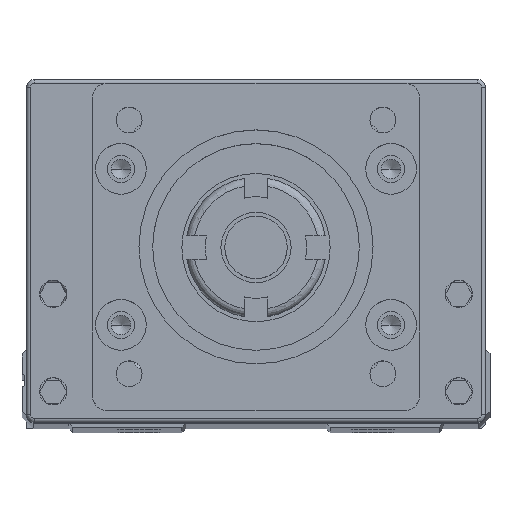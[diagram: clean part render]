
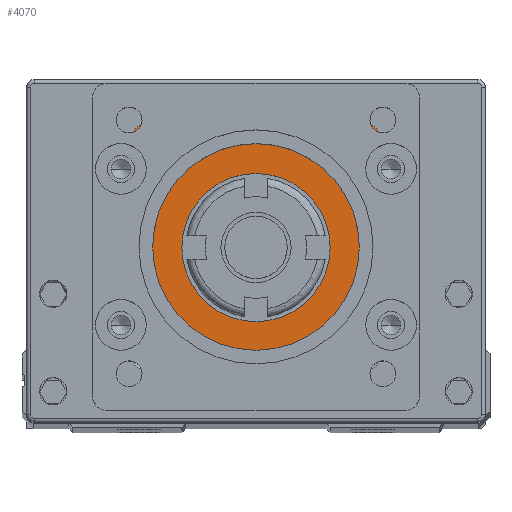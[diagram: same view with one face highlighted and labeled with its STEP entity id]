
A CAD part, top view. The second image highlights one B-rep face of the part: STEP entity #4070.
In plain terms, the highlighted planar face has unit normal (0, 0, 1).
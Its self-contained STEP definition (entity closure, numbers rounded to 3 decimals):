
#259 = EDGE_CURVE ( 'NONE', #41064, #5808, #46841, .T. ) ;
#370 = CARTESIAN_POINT ( 'NONE',  ( 51.735, 12.398, 218.5 ) ) ;
#893 = DIRECTION ( 'NONE',  ( 1., 0., 0. ) ) ;
#2099 = DIRECTION ( 'NONE',  ( 0., 0., -1. ) ) ;
#2483 = EDGE_CURVE ( 'NONE', #41971, #55042, #20600, .T. ) ;
#2522 = CARTESIAN_POINT ( 'NONE',  ( 3.935, 29.398, 218.5 ) ) ;
#3054 = CARTESIAN_POINT ( 'NONE',  ( 51.735, 32.398, 218.5 ) ) ;
#3131 = VERTEX_POINT ( 'NONE', #10608 ) ;
#3368 = ORIENTED_EDGE ( 'NONE', *, *, #47364, .F. ) ;
#3537 = ORIENTED_EDGE ( 'NONE', *, *, #259, .F. ) ;
#3769 = LINE ( 'NONE', #17648, #50534 ) ;
#3874 = EDGE_CURVE ( 'NONE', #5808, #3131, #32686, .T. ) ;
#3947 = ORIENTED_EDGE ( 'NONE', *, *, #17452, .F. ) ;
#4070 = ADVANCED_FACE ( 'NONE', ( #43689, #58590 ), #23380, .F. ) ;
#4091 = VERTEX_POINT ( 'NONE', #15583 ) ;
#4643 = VERTEX_POINT ( 'NONE', #27958 ) ;
#4721 = VERTEX_POINT ( 'NONE', #65483 ) ;
#4904 = ORIENTED_EDGE ( 'NONE', *, *, #14084, .F. ) ;
#5326 = CARTESIAN_POINT ( 'NONE',  ( 12.935, 29.398, 218.5 ) ) ;
#5808 = VERTEX_POINT ( 'NONE', #2522 ) ;
#5833 = CARTESIAN_POINT ( 'NONE',  ( 12.935, 12.398, 218.5 ) ) ;
#7246 = AXIS2_PLACEMENT_3D ( 'NONE', #57043, #15434, #893 ) ;
#8822 = VECTOR ( 'NONE', #26128, 1000. ) ;
#9505 = DIRECTION ( 'NONE',  ( 1., 0., 0. ) ) ;
#9786 = DIRECTION ( 'NONE',  ( 0., -1., 0. ) ) ;
#10340 = CARTESIAN_POINT ( 'NONE',  ( 40.32, 12.398, 218.5 ) ) ;
#10608 = CARTESIAN_POINT ( 'NONE',  ( 3.935, 32.398, 218.5 ) ) ;
#12575 = VECTOR ( 'NONE', #23665, 1000. ) ;
#13374 = CARTESIAN_POINT ( 'NONE',  ( 52.335, 44.398, 218.5 ) ) ;
#13581 = DIRECTION ( 'NONE',  ( 0., -1., 0. ) ) ;
#13705 = DIRECTION ( 'NONE',  ( 1., 0., 0. ) ) ;
#14084 = EDGE_CURVE ( 'NONE', #35038, #41064, #3769, .T. ) ;
#14175 = CARTESIAN_POINT ( 'NONE',  ( 22.835, 23.898, 218.5 ) ) ;
#14219 = AXIS2_PLACEMENT_3D ( 'NONE', #56028, #19465, #13705 ) ;
#14452 = VECTOR ( 'NONE', #31311, 1000. ) ;
#14480 = EDGE_CURVE ( 'NONE', #4091, #31594, #61526, .T. ) ;
#14496 = DIRECTION ( 'NONE',  ( 0., 1., 0. ) ) ;
#14547 = ORIENTED_EDGE ( 'NONE', *, *, #66430, .F. ) ;
#15434 = DIRECTION ( 'NONE',  ( 0., 0., 1. ) ) ;
#15583 = CARTESIAN_POINT ( 'NONE',  ( 12.335, 32.398, 218.5 ) ) ;
#15586 = VERTEX_POINT ( 'NONE', #47650 ) ;
#15678 = LINE ( 'NONE', #46449, #32820 ) ;
#16502 = CARTESIAN_POINT ( 'NONE',  ( 12.335, 44.398, 218.5 ) ) ;
#17220 = DIRECTION ( 'NONE',  ( 1., 0., 0. ) ) ;
#17313 = CIRCLE ( 'NONE', #43218, 9.5 ) ;
#17452 = EDGE_CURVE ( 'NONE', #15586, #36331, #17313, .T. ) ;
#17648 = CARTESIAN_POINT ( 'NONE',  ( 12.935, 26.398, 218.5 ) ) ;
#19465 = DIRECTION ( 'NONE',  ( 0., 0., -1. ) ) ;
#20183 = DIRECTION ( 'NONE',  ( -1., 0., 0. ) ) ;
#20600 = LINE ( 'NONE', #29784, #58141 ) ;
#20934 = LINE ( 'NONE', #61214, #24874 ) ;
#21434 = CARTESIAN_POINT ( 'NONE',  ( 60.735, 29.398, 218.5 ) ) ;
#21749 = CIRCLE ( 'NONE', #14219, 14. ) ;
#22019 = ORIENTED_EDGE ( 'NONE', *, *, #64324, .F. ) ;
#22470 = VECTOR ( 'NONE', #14496, 1000. ) ;
#22562 = EDGE_CURVE ( 'NONE', #48069, #4643, #26286, .T. ) ;
#22617 = DIRECTION ( 'NONE',  ( 0., 0., 1. ) ) ;
#23380 = PLANE ( 'NONE',  #66187 ) ;
#23621 = VECTOR ( 'NONE', #9505, 1000. ) ;
#23665 = DIRECTION ( 'NONE',  ( -1., 0., 0. ) ) ;
#24874 = VECTOR ( 'NONE', #46994, 1000. ) ;
#25721 = ORIENTED_EDGE ( 'NONE', *, *, #3874, .F. ) ;
#26128 = DIRECTION ( 'NONE',  ( -1., 0., 0. ) ) ;
#26286 = LINE ( 'NONE', #5326, #66482 ) ;
#26541 = ORIENTED_EDGE ( 'NONE', *, *, #52586, .T. ) ;
#27102 = VERTEX_POINT ( 'NONE', #370 ) ;
#27958 = CARTESIAN_POINT ( 'NONE',  ( 51.735, 29.398, 218.5 ) ) ;
#29724 = DIRECTION ( 'NONE',  ( 0., -1., 0. ) ) ;
#29784 = CARTESIAN_POINT ( 'NONE',  ( 52.335, 26.398, 218.5 ) ) ;
#29827 = CARTESIAN_POINT ( 'NONE',  ( 52.335, 32.398, 218.5 ) ) ;
#30837 = ORIENTED_EDGE ( 'NONE', *, *, #2483, .F. ) ;
#31311 = DIRECTION ( 'NONE',  ( -1., 0., 0. ) ) ;
#31594 = VERTEX_POINT ( 'NONE', #16502 ) ;
#32686 = LINE ( 'NONE', #43126, #44475 ) ;
#32820 = VECTOR ( 'NONE', #46092, 1000. ) ;
#32843 = EDGE_CURVE ( 'NONE', #36331, #15586, #40716, .T. ) ;
#32984 = VERTEX_POINT ( 'NONE', #51955 ) ;
#34273 = VECTOR ( 'NONE', #29724, 1000. ) ;
#34772 = EDGE_CURVE ( 'NONE', #31594, #41971, #20934, .T. ) ;
#35038 = VERTEX_POINT ( 'NONE', #35345 ) ;
#35208 = LINE ( 'NONE', #50800, #23621 ) ;
#35345 = CARTESIAN_POINT ( 'NONE',  ( 12.935, 12.398, 218.5 ) ) ;
#35473 = LINE ( 'NONE', #3054, #12575 ) ;
#36331 = VERTEX_POINT ( 'NONE', #14175 ) ;
#36638 = CARTESIAN_POINT ( 'NONE',  ( 12.935, 29.398, 218.5 ) ) ;
#36846 = EDGE_LOOP ( 'NONE', ( #3947, #61031 ) ) ;
#39486 = LINE ( 'NONE', #60140, #34273 ) ;
#40239 = EDGE_CURVE ( 'NONE', #3131, #4091, #35208, .T. ) ;
#40716 = CIRCLE ( 'NONE', #7246, 9.5 ) ;
#41064 = VERTEX_POINT ( 'NONE', #50138 ) ;
#41971 = VERTEX_POINT ( 'NONE', #13374 ) ;
#42007 = VECTOR ( 'NONE', #57337, 1000. ) ;
#42670 = ORIENTED_EDGE ( 'NONE', *, *, #34772, .F. ) ;
#42741 = EDGE_CURVE ( 'NONE', #50955, #32984, #21749, .T. ) ;
#43126 = CARTESIAN_POINT ( 'NONE',  ( 3.935, 26.398, 218.5 ) ) ;
#43218 = AXIS2_PLACEMENT_3D ( 'NONE', #63258, #22617, #17220 ) ;
#43354 = CARTESIAN_POINT ( 'NONE',  ( 12.935, 26.398, 218.5 ) ) ;
#43689 = FACE_BOUND ( 'NONE', #36846, .T. ) ;
#44475 = VECTOR ( 'NONE', #53641, 1000. ) ;
#44831 = ORIENTED_EDGE ( 'NONE', *, *, #40239, .F. ) ;
#45813 = LINE ( 'NONE', #51558, #14452 ) ;
#46092 = DIRECTION ( 'NONE',  ( 0., -1., 0. ) ) ;
#46370 = EDGE_CURVE ( 'NONE', #27102, #50955, #57585, .T. ) ;
#46449 = CARTESIAN_POINT ( 'NONE',  ( 51.735, 26.398, 218.5 ) ) ;
#46841 = LINE ( 'NONE', #36638, #42007 ) ;
#46994 = DIRECTION ( 'NONE',  ( 1., 0., 0. ) ) ;
#47364 = EDGE_CURVE ( 'NONE', #32984, #35038, #45813, .T. ) ;
#47650 = CARTESIAN_POINT ( 'NONE',  ( 41.835, 23.898, 218.5 ) ) ;
#48069 = VERTEX_POINT ( 'NONE', #21434 ) ;
#49510 = ORIENTED_EDGE ( 'NONE', *, *, #42741, .F. ) ;
#50138 = CARTESIAN_POINT ( 'NONE',  ( 12.935, 29.398, 218.5 ) ) ;
#50260 = ORIENTED_EDGE ( 'NONE', *, *, #14480, .F. ) ;
#50534 = VECTOR ( 'NONE', #60245, 1000. ) ;
#50800 = CARTESIAN_POINT ( 'NONE',  ( 12.935, 32.398, 218.5 ) ) ;
#50955 = VERTEX_POINT ( 'NONE', #10340 ) ;
#51137 = ORIENTED_EDGE ( 'NONE', *, *, #22562, .F. ) ;
#51551 = EDGE_LOOP ( 'NONE', ( #3537, #4904, #3368, #49510, #54818, #14547, #51137, #22019, #26541, #30837, #42670, #50260, #44831, #25721 ) ) ;
#51558 = CARTESIAN_POINT ( 'NONE',  ( 12.935, 12.398, 218.5 ) ) ;
#51955 = CARTESIAN_POINT ( 'NONE',  ( 24.351, 12.398, 218.5 ) ) ;
#52586 = EDGE_CURVE ( 'NONE', #4721, #55042, #35473, .T. ) ;
#53641 = DIRECTION ( 'NONE',  ( 0., 1., 0. ) ) ;
#54818 = ORIENTED_EDGE ( 'NONE', *, *, #46370, .F. ) ;
#55042 = VERTEX_POINT ( 'NONE', #29827 ) ;
#56028 = CARTESIAN_POINT ( 'NONE',  ( 32.335, 23.898, 218.5 ) ) ;
#57043 = CARTESIAN_POINT ( 'NONE',  ( 32.335, 23.898, 218.5 ) ) ;
#57337 = DIRECTION ( 'NONE',  ( -1., 0., 0. ) ) ;
#57585 = LINE ( 'NONE', #5833, #8822 ) ;
#58141 = VECTOR ( 'NONE', #9786, 1000. ) ;
#58590 = FACE_OUTER_BOUND ( 'NONE', #51551, .T. ) ;
#60140 = CARTESIAN_POINT ( 'NONE',  ( 60.735, 26.398, 218.5 ) ) ;
#60245 = DIRECTION ( 'NONE',  ( 0., 1., 0. ) ) ;
#61031 = ORIENTED_EDGE ( 'NONE', *, *, #32843, .F. ) ;
#61214 = CARTESIAN_POINT ( 'NONE',  ( 12.935, 44.398, 218.5 ) ) ;
#61526 = LINE ( 'NONE', #66262, #22470 ) ;
#63258 = CARTESIAN_POINT ( 'NONE',  ( 32.335, 23.898, 218.5 ) ) ;
#64324 = EDGE_CURVE ( 'NONE', #4721, #48069, #39486, .T. ) ;
#65483 = CARTESIAN_POINT ( 'NONE',  ( 60.735, 32.398, 218.5 ) ) ;
#66187 = AXIS2_PLACEMENT_3D ( 'NONE', #43354, #2099, #13581 ) ;
#66262 = CARTESIAN_POINT ( 'NONE',  ( 12.335, 26.398, 218.5 ) ) ;
#66430 = EDGE_CURVE ( 'NONE', #4643, #27102, #15678, .T. ) ;
#66482 = VECTOR ( 'NONE', #20183, 1000. ) ;
